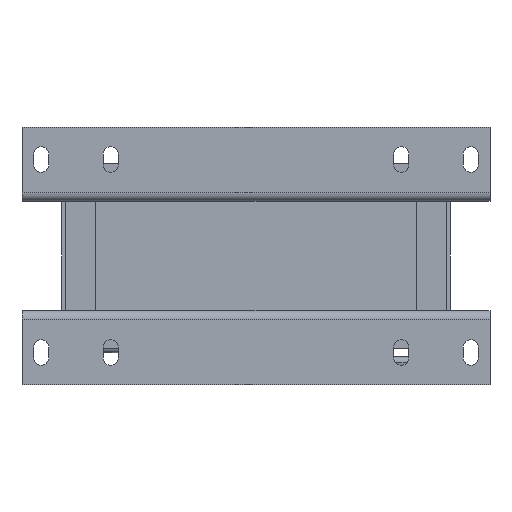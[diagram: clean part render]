
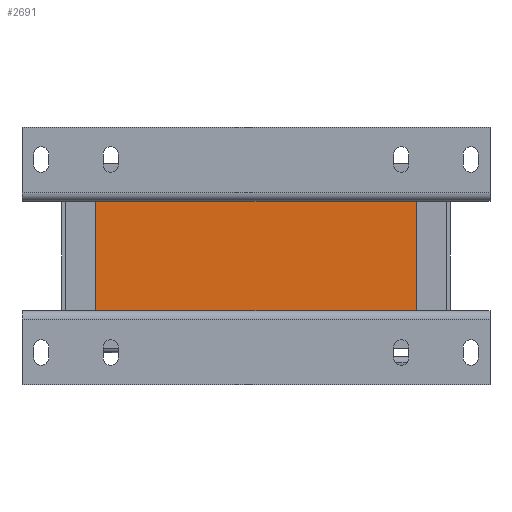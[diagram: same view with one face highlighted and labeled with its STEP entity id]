
A CAD part, front view. The second image highlights one B-rep face of the part: STEP entity #2691.
In plain terms, the highlighted planar face has unit normal (0, -1, 0).
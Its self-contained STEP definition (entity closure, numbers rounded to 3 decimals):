
#331 = ORIENTED_EDGE ( 'NONE', *, *, #4245, .F. ) ;
#771 = VECTOR ( 'NONE', #873, 1000. ) ;
#830 = ORIENTED_EDGE ( 'NONE', *, *, #8465, .F. ) ;
#873 = DIRECTION ( 'NONE',  ( 0., 0., -1. ) ) ;
#1023 = FACE_OUTER_BOUND ( 'NONE', #8424, .T. ) ;
#1114 = DIRECTION ( 'NONE',  ( 1., 0., 0. ) ) ;
#1229 = DIRECTION ( 'NONE',  ( 1., 0., 0. ) ) ;
#1865 = CARTESIAN_POINT ( 'NONE',  ( -75., 7., 25.65 ) ) ;
#2691 = ADVANCED_FACE ( 'NONE', ( #1023 ), #3527, .F. ) ;
#2762 = VECTOR ( 'NONE', #1114, 1000. ) ;
#3527 = PLANE ( 'NONE',  #6242 ) ;
#3565 = VECTOR ( 'NONE', #1229, 1000. ) ;
#4245 = EDGE_CURVE ( 'NONE', #10756, #8668, #9374, .T. ) ;
#4441 = ORIENTED_EDGE ( 'NONE', *, *, #14896, .T. ) ;
#4755 = CARTESIAN_POINT ( 'NONE',  ( -75., 7., -25.65 ) ) ;
#5181 = EDGE_CURVE ( 'NONE', #10756, #12370, #8272, .T. ) ;
#5973 = CARTESIAN_POINT ( 'NONE',  ( -75., 7., 178.881 ) ) ;
#6153 = VECTOR ( 'NONE', #6629, 1000. ) ;
#6242 = AXIS2_PLACEMENT_3D ( 'NONE', #5973, #8494, #15185 ) ;
#6629 = DIRECTION ( 'NONE',  ( 0., 0., -1. ) ) ;
#7207 = LINE ( 'NONE', #4755, #3565 ) ;
#8272 = LINE ( 'NONE', #11657, #771 ) ;
#8346 = VERTEX_POINT ( 'NONE', #9942 ) ;
#8424 = EDGE_LOOP ( 'NONE', ( #4441, #830, #331, #9157 ) ) ;
#8465 = EDGE_CURVE ( 'NONE', #8668, #8346, #15103, .T. ) ;
#8494 = DIRECTION ( 'NONE',  ( 0., 1., 0. ) ) ;
#8668 = VERTEX_POINT ( 'NONE', #12780 ) ;
#9157 = ORIENTED_EDGE ( 'NONE', *, *, #5181, .T. ) ;
#9374 = LINE ( 'NONE', #11818, #2762 ) ;
#9942 = CARTESIAN_POINT ( 'NONE',  ( 75., 7., -25.65 ) ) ;
#10756 = VERTEX_POINT ( 'NONE', #1865 ) ;
#11657 = CARTESIAN_POINT ( 'NONE',  ( -75., 7., 178.881 ) ) ;
#11818 = CARTESIAN_POINT ( 'NONE',  ( -75., 7., 25.65 ) ) ;
#11929 = CARTESIAN_POINT ( 'NONE',  ( -75., 7., -25.65 ) ) ;
#12370 = VERTEX_POINT ( 'NONE', #11929 ) ;
#12630 = CARTESIAN_POINT ( 'NONE',  ( 75., 7., 178.881 ) ) ;
#12780 = CARTESIAN_POINT ( 'NONE',  ( 75., 7., 25.65 ) ) ;
#14896 = EDGE_CURVE ( 'NONE', #12370, #8346, #7207, .T. ) ;
#15103 = LINE ( 'NONE', #12630, #6153 ) ;
#15185 = DIRECTION ( 'NONE',  ( -1., 0., 0. ) ) ;
